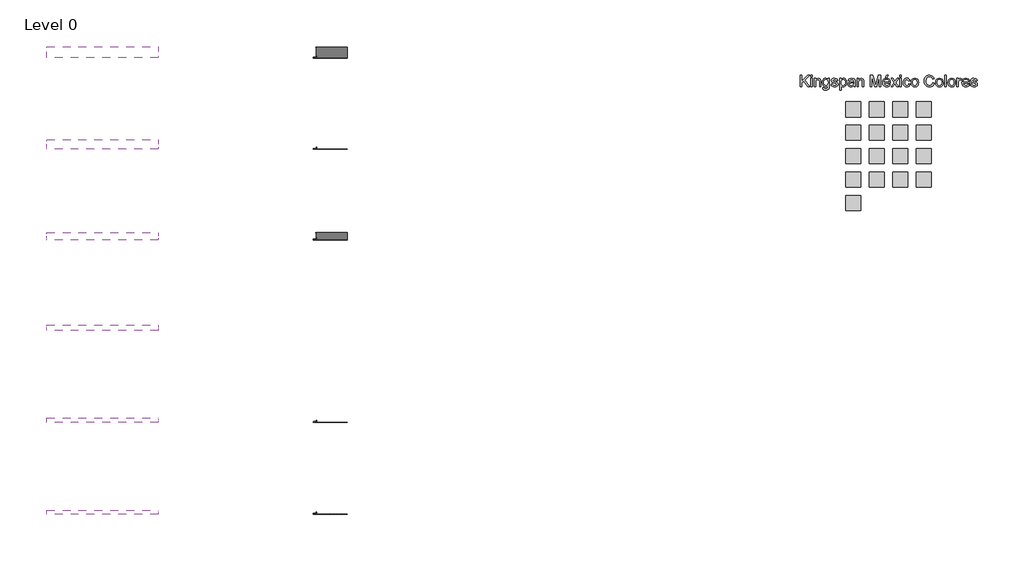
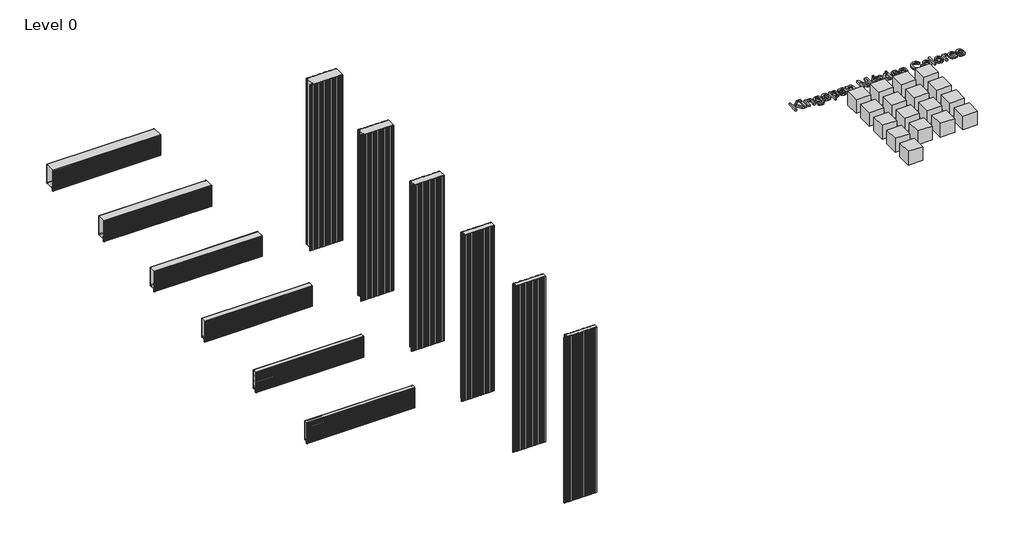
# One storey, incomplete: 18 proxies, 12 plates.
"""IFC4 building model written with IfcOpenShell, lengths in millimetres."""

from ifc_helpers import new_model, si_unit, origin, place, context, project, spatial, transform, mapped, element, save
from components import generic_models_b1469a46, ks_colour_sample_ks_colour_sample_0243efec, hz_050mm_45b77bb8, hz_060mm_977d06c2, hz_075mm_6d015572, hz_100mm_43d21306, hz_125mm_f171d79f, hz_150mm_669a072b, vt_050mm_2a4f2189, vt_060mm_25a03f9c, vt_075mm_0a597b58, vt_100mm_efa87503, vt_125mm_50f7fd7f, vt_150mm_58a6ca3a

model = new_model("IFC4")

# Units and contexts
model_context = context("Model", 3, world=origin())
ifc_project = project(units=[si_unit("LENGTHUNIT", "METRE", prefix="MILLI")], contexts=[model_context])

# Site, building, storey
site = spatial("IfcSite", under=ifc_project)
building = spatial("IfcBuilding", under=site)
storey = spatial("IfcBuildingStorey", under=building, Name="Level 0", Elevation=0.0)

# Proxies
placement = place(None, origin())
generic_models_shape = generic_models_b1469a46(model_context)
element("IfcBuildingElementProxy", 1, Name="KIP-MX_ColourRange_Spanish : KIP-MX_ColourRange_English", ObjectType="KIP-MX_ColourRange_Spanish : KIP-MX_ColourRange_English", at=placement, inside=storey, context=model_context, shape_type="MappedRepresentation", body=[
    mapped(generic_models_shape, transform((1966.0629502, 11802.7493823, 0.0), x_axis=(1.0, 0.0, 0.0), y_axis=(0.0, 1.0, 0.0), z_axis=(0.0, 0.0, 1.0))),
])
ks_colour_sample_ks_colour_sample_shape = ks_colour_sample_ks_colour_sample_0243efec(model_context)
element("IfcBuildingElementProxy", 2, Name="KS_Colour Sample : KS_Colour Sample", ObjectType="KS_Colour Sample : KS_Colour Sample", at=placement, inside=storey, context=model_context, shape_type="MappedRepresentation", body=[
    mapped(ks_colour_sample_ks_colour_sample_shape, transform((1501.0629502, 13781.2299273, 0.0), x_axis=(1.0, 0.0, 0.0), y_axis=(0.0, 1.0, 0.0), z_axis=(0.0, 0.0, 1.0))),
])
element("IfcBuildingElementProxy", 3, Name="KS_Colour Sample : KS_Colour Sample", ObjectType="KS_Colour Sample : KS_Colour Sample", at=placement, inside=storey, context=model_context, shape_type="MappedRepresentation", body=[
    mapped(ks_colour_sample_ks_colour_sample_shape, transform((1811.0629502, 13781.2299273, 0.0), x_axis=(1.0, 0.0, 0.0), y_axis=(0.0, 1.0, 0.0), z_axis=(0.0, 0.0, 1.0))),
])
element("IfcBuildingElementProxy", 4, Name="KS_Colour Sample : KS_Colour Sample", ObjectType="KS_Colour Sample : KS_Colour Sample", at=placement, inside=storey, context=model_context, shape_type="MappedRepresentation", body=[
    mapped(ks_colour_sample_ks_colour_sample_shape, transform((2121.0629502, 13781.2299273, 0.0), x_axis=(1.0, 0.0, 0.0), y_axis=(0.0, 1.0, 0.0), z_axis=(0.0, 0.0, 1.0))),
])
element("IfcBuildingElementProxy", 5, Name="KS_Colour Sample : KS_Colour Sample", ObjectType="KS_Colour Sample : KS_Colour Sample", at=placement, inside=storey, context=model_context, shape_type="MappedRepresentation", body=[
    mapped(ks_colour_sample_ks_colour_sample_shape, transform((2431.0629502, 13781.2299273, 0.0), x_axis=(1.0, 0.0, 0.0), y_axis=(0.0, 1.0, 0.0), z_axis=(0.0, 0.0, 1.0))),
])
element("IfcBuildingElementProxy", 6, Name="KS_Colour Sample : KS_Colour Sample", ObjectType="KS_Colour Sample : KS_Colour Sample", at=placement, inside=storey, context=model_context, shape_type="MappedRepresentation", body=[
    mapped(ks_colour_sample_ks_colour_sample_shape, transform((1501.0629502, 13471.2299273, 0.0), x_axis=(1.0, 0.0, 0.0), y_axis=(0.0, 1.0, 0.0), z_axis=(0.0, 0.0, 1.0))),
])
element("IfcBuildingElementProxy", 7, Name="KS_Colour Sample : KS_Colour Sample", ObjectType="KS_Colour Sample : KS_Colour Sample", at=placement, inside=storey, context=model_context, shape_type="MappedRepresentation", body=[
    mapped(ks_colour_sample_ks_colour_sample_shape, transform((1811.0629502, 13471.2299273, 0.0), x_axis=(1.0, 0.0, 0.0), y_axis=(0.0, 1.0, 0.0), z_axis=(0.0, 0.0, 1.0))),
])
element("IfcBuildingElementProxy", 8, Name="KS_Colour Sample : KS_Colour Sample", ObjectType="KS_Colour Sample : KS_Colour Sample", at=placement, inside=storey, context=model_context, shape_type="MappedRepresentation", body=[
    mapped(ks_colour_sample_ks_colour_sample_shape, transform((2121.0629502, 13471.2299273, 0.0), x_axis=(1.0, 0.0, 0.0), y_axis=(0.0, 1.0, 0.0), z_axis=(0.0, 0.0, 1.0))),
])
element("IfcBuildingElementProxy", 9, Name="KS_Colour Sample : KS_Colour Sample", ObjectType="KS_Colour Sample : KS_Colour Sample", at=placement, inside=storey, context=model_context, shape_type="MappedRepresentation", body=[
    mapped(ks_colour_sample_ks_colour_sample_shape, transform((2431.0629502, 13471.2299273, 0.0), x_axis=(1.0, 0.0, 0.0), y_axis=(0.0, 1.0, 0.0), z_axis=(0.0, 0.0, 1.0))),
])
element("IfcBuildingElementProxy", 10, Name="KS_Colour Sample : KS_Colour Sample", ObjectType="KS_Colour Sample : KS_Colour Sample", at=placement, inside=storey, context=model_context, shape_type="MappedRepresentation", body=[
    mapped(ks_colour_sample_ks_colour_sample_shape, transform((1501.0629502, 13161.2299273, 0.0), x_axis=(1.0, 0.0, 0.0), y_axis=(0.0, 1.0, 0.0), z_axis=(0.0, 0.0, 1.0))),
])
element("IfcBuildingElementProxy", 11, Name="KS_Colour Sample : KS_Colour Sample", ObjectType="KS_Colour Sample : KS_Colour Sample", at=placement, inside=storey, context=model_context, shape_type="MappedRepresentation", body=[
    mapped(ks_colour_sample_ks_colour_sample_shape, transform((1811.0629502, 13161.2299273, 0.0), x_axis=(1.0, 0.0, 0.0), y_axis=(0.0, 1.0, 0.0), z_axis=(0.0, 0.0, 1.0))),
])
element("IfcBuildingElementProxy", 12, Name="KS_Colour Sample : KS_Colour Sample", ObjectType="KS_Colour Sample : KS_Colour Sample", at=placement, inside=storey, context=model_context, shape_type="MappedRepresentation", body=[
    mapped(ks_colour_sample_ks_colour_sample_shape, transform((2121.0629502, 13161.2299273, 0.0), x_axis=(1.0, 0.0, 0.0), y_axis=(0.0, 1.0, 0.0), z_axis=(0.0, 0.0, 1.0))),
])
element("IfcBuildingElementProxy", 13, Name="KS_Colour Sample : KS_Colour Sample", ObjectType="KS_Colour Sample : KS_Colour Sample", at=placement, inside=storey, context=model_context, shape_type="MappedRepresentation", body=[
    mapped(ks_colour_sample_ks_colour_sample_shape, transform((2431.0629502, 13161.2299273, 0.0), x_axis=(1.0, 0.0, 0.0), y_axis=(0.0, 1.0, 0.0), z_axis=(0.0, 0.0, 1.0))),
])
element("IfcBuildingElementProxy", 14, Name="KS_Colour Sample : KS_Colour Sample", ObjectType="KS_Colour Sample : KS_Colour Sample", at=placement, inside=storey, context=model_context, shape_type="MappedRepresentation", body=[
    mapped(ks_colour_sample_ks_colour_sample_shape, transform((1501.0629502, 12851.2299273, 0.0), x_axis=(1.0, 0.0, 0.0), y_axis=(0.0, 1.0, 0.0), z_axis=(0.0, 0.0, 1.0))),
])
element("IfcBuildingElementProxy", 15, Name="KS_Colour Sample : KS_Colour Sample", ObjectType="KS_Colour Sample : KS_Colour Sample", at=placement, inside=storey, context=model_context, shape_type="MappedRepresentation", body=[
    mapped(ks_colour_sample_ks_colour_sample_shape, transform((1811.0629502, 12851.2299273, 0.0), x_axis=(1.0, 0.0, 0.0), y_axis=(0.0, 1.0, 0.0), z_axis=(0.0, 0.0, 1.0))),
])
element("IfcBuildingElementProxy", 16, Name="KS_Colour Sample : KS_Colour Sample", ObjectType="KS_Colour Sample : KS_Colour Sample", at=placement, inside=storey, context=model_context, shape_type="MappedRepresentation", body=[
    mapped(ks_colour_sample_ks_colour_sample_shape, transform((2121.0629502, 12851.2299273, 0.0), x_axis=(1.0, 0.0, 0.0), y_axis=(0.0, 1.0, 0.0), z_axis=(0.0, 0.0, 1.0))),
])
element("IfcBuildingElementProxy", 17, Name="KS_Colour Sample : KS_Colour Sample", ObjectType="KS_Colour Sample : KS_Colour Sample", at=placement, inside=storey, context=model_context, shape_type="MappedRepresentation", body=[
    mapped(ks_colour_sample_ks_colour_sample_shape, transform((2431.0629502, 12851.2299273, 0.0), x_axis=(1.0, 0.0, 0.0), y_axis=(0.0, 1.0, 0.0), z_axis=(0.0, 0.0, 1.0))),
])
element("IfcBuildingElementProxy", 18, Name="KS_Colour Sample : KS_Colour Sample", ObjectType="KS_Colour Sample : KS_Colour Sample", at=placement, inside=storey, context=model_context, shape_type="MappedRepresentation", body=[
    mapped(ks_colour_sample_ks_colour_sample_shape, transform((1501.0629502, 12541.2299273, 0.0), x_axis=(1.0, 0.0, 0.0), y_axis=(0.0, 1.0, 0.0), z_axis=(0.0, 0.0, 1.0))),
])

# Plates
hz_050mm_shape = hz_050mm_45b77bb8(model_context)
element("IfcPlate", 19, ObjectType="KIP-MEX-KSS-1067-R19-CP-Hz-MR_SL : Hz 050mm", at=placement, inside=storey, context=model_context, shape_type="MappedRepresentation", body=[
    mapped(hz_050mm_shape, transform((-8438.7250935, 8468.7418563, 2134.0), x_axis=(1.0, 0.0, 0.0), y_axis=(0.0, 1.0, 0.0), z_axis=(0.0, 0.0, 1.0))),
])
hz_060mm_shape = hz_060mm_977d06c2(model_context)
element("IfcPlate", 20, ObjectType="KIP-MEX-KSS-1067-R19-CP-Hz-MR_SL : Hz 060mm", at=placement, inside=storey, context=model_context, shape_type="MappedRepresentation", body=[
    mapped(hz_060mm_shape, transform((-8438.7250935, 9693.0962077, 2134.0), x_axis=(1.0, 0.0, 0.0), y_axis=(0.0, 1.0, 0.0), z_axis=(0.0, 0.0, 1.0))),
])
hz_075mm_shape = hz_075mm_6d015572(model_context)
element("IfcPlate", 21, ObjectType="KIP-MEX-KSS-1067-R19-CP-Hz-MR_SL : Hz 075mm", at=placement, inside=storey, context=model_context, shape_type="MappedRepresentation", body=[
    mapped(hz_075mm_shape, transform((-8438.7250935, 10927.2962077, 2134.0), x_axis=(1.0, 0.0, 0.0), y_axis=(0.0, 1.0, 0.0), z_axis=(0.0, 0.0, 1.0))),
])
hz_100mm_shape = hz_100mm_43d21306(model_context)
element("IfcPlate", 22, ObjectType="KIP-MEX-KSS-1067-R19-CP-Hz-MR_SL : Hz 100mm", at=placement, inside=storey, context=model_context, shape_type="MappedRepresentation", body=[
    mapped(hz_100mm_shape, transform((-8438.7250935, 12150.3733554, 2134.0), x_axis=(1.0, 0.0, 0.0), y_axis=(0.0, 1.0, 0.0), z_axis=(0.0, 0.0, 1.0))),
])
hz_125mm_shape = hz_125mm_f171d79f(model_context)
element("IfcPlate", 23, ObjectType="KIP-MEX-KSS-1067-R19-CP-Hz-MR_SL : Hz 125mm", at=placement, inside=storey, context=model_context, shape_type="MappedRepresentation", body=[
    mapped(hz_125mm_shape, transform((-8438.7250935, 13377.5488626, 2134.0), x_axis=(1.0, 0.0, 0.0), y_axis=(0.0, 1.0, 0.0), z_axis=(0.0, 0.0, 1.0))),
])
hz_150mm_shape = hz_150mm_669a072b(model_context)
element("IfcPlate", 24, ObjectType="KIP-MEX-KSS-1067-R19-CP-Hz-MR_SL : Hz 150mm", at=placement, inside=storey, context=model_context, shape_type="MappedRepresentation", body=[
    mapped(hz_150mm_shape, transform((-8438.7250935, 14614.4207339, 2134.0), x_axis=(1.0, 0.0, 0.0), y_axis=(0.0, 1.0, 0.0), z_axis=(0.0, 0.0, 1.0))),
])
vt_050mm_shape = vt_050mm_2a4f2189(model_context)
element("IfcPlate", 25, ObjectType="KIP-MEX-KSS-1067-R19-CP-Vt-MR_SL : Vt 050mm", at=placement, inside=storey, context=model_context, shape_type="MappedRepresentation", body=[
    mapped(vt_050mm_shape, transform((-5405.4413834, 8468.7418563, 0.0), x_axis=(1.0, 0.0, 0.0), y_axis=(0.0, 1.0, 0.0), z_axis=(0.0, 0.0, 1.0))),
])
vt_060mm_shape = vt_060mm_25a03f9c(model_context)
element("IfcPlate", 26, ObjectType="KIP-MEX-KSS-1067-R19-CP-Vt-MR_SL : Vt 060mm", at=placement, inside=storey, context=model_context, shape_type="MappedRepresentation", body=[
    mapped(vt_060mm_shape, transform((-5405.4413834, 9693.0962077, 0.0), x_axis=(1.0, 0.0, 0.0), y_axis=(0.0, 1.0, 0.0), z_axis=(0.0, 0.0, 1.0))),
])
vt_075mm_shape = vt_075mm_0a597b58(model_context)
element("IfcPlate", 27, ObjectType="KIP-MEX-KSS-1067-R19-CP-Vt-MR_SL : Vt 075mm", at=placement, inside=storey, context=model_context, shape_type="MappedRepresentation", body=[
    mapped(vt_075mm_shape, transform((-5405.4413834, 10927.2962077, 0.0), x_axis=(1.0, 0.0, 0.0), y_axis=(0.0, 1.0, 0.0), z_axis=(0.0, 0.0, 1.0))),
])
vt_100mm_shape = vt_100mm_efa87503(model_context)
element("IfcPlate", 28, ObjectType="KIP-MEX-KSS-1067-R19-CP-Vt-MR_SL : Vt 100mm", at=placement, inside=storey, context=model_context, shape_type="MappedRepresentation", body=[
    mapped(vt_100mm_shape, transform((-5405.4413834, 12150.3733554, 0.0), x_axis=(1.0, 0.0, 0.0), y_axis=(0.0, 1.0, 0.0), z_axis=(0.0, 0.0, 1.0))),
])
vt_125mm_shape = vt_125mm_50f7fd7f(model_context)
element("IfcPlate", 29, ObjectType="KIP-MEX-KSS-1067-R19-CP-Vt-MR_SL : Vt 125mm", at=placement, inside=storey, context=model_context, shape_type="MappedRepresentation", body=[
    mapped(vt_125mm_shape, transform((-5405.4413834, 13377.5488626, 0.0), x_axis=(1.0, 0.0, 0.0), y_axis=(0.0, 1.0, 0.0), z_axis=(0.0, 0.0, 1.0))),
])
vt_150mm_shape = vt_150mm_58a6ca3a(model_context)
element("IfcPlate", 30, ObjectType="KIP-MEX-KSS-1067-R19-CP-Vt-MR_SL : Vt 150mm", at=placement, inside=storey, context=model_context, shape_type="MappedRepresentation", body=[
    mapped(vt_150mm_shape, transform((-5405.4413834, 14609.2486688, 0.0), x_axis=(1.0, 0.0, 0.0), y_axis=(0.0, 1.0, 0.0), z_axis=(0.0, 0.0, 1.0))),
])

save(model, "model.ifc")
